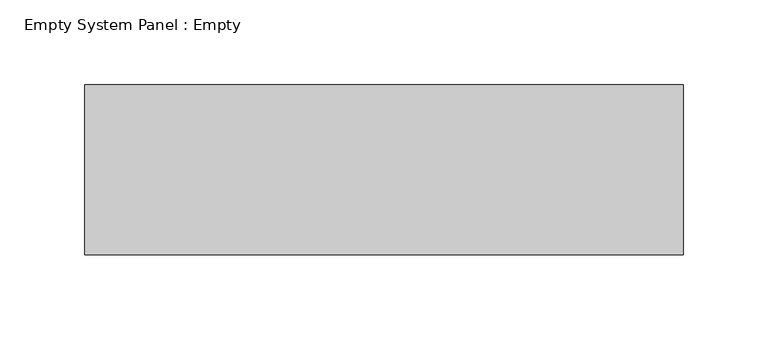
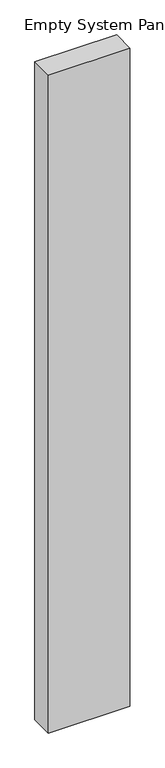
"""IFC4 building model written with IfcOpenShell, lengths in millimetres: plate geometry, Empty System Panel : Empty."""

from ifc_helpers import new_model, si_unit, origin, origin_with_axes, place, context, project, spatial, polyline, outline, extrude, source, transform, mapped, element, save


def empty_system_panel_empty_c65c1b0f(model_context):
    return source(origin(), model_context, "Body", "SweptSolid", [
        extrude(outline(polyline([(176.0, -50.0), (-176.0, -50.0), (-176.0, 50.0), (176.0, 50.0), (176.0, -50.0)])), origin_with_axes(), (0.0, 0.0, 1.0), 3000.0),
    ])


if __name__ == "__main__":
    model = new_model("IFC4")
    model_context = context("Model", 3, world=origin())
    ifc_project = project(units=[si_unit("LENGTHUNIT", "METRE", prefix="MILLI")], contexts=[model_context])
    site = spatial("IfcSite", under=ifc_project)
    building = spatial("IfcBuilding", under=site)
    placement = place(None, origin())
    empty_system_panel_empty_shape = empty_system_panel_empty_c65c1b0f(model_context)
    element("IfcPlate", 1, ObjectType="Empty System Panel : Empty", at=placement, inside=building, context=model_context, shape_type="MappedRepresentation", body=[
        mapped(empty_system_panel_empty_shape, transform((0.0, 0.0, 0.0), x_axis=(1.0, 0.0, 0.0), y_axis=(0.0, 1.0, 0.0), z_axis=(0.0, 0.0, 1.0))),
    ])
    save(model, "model.ifc")
